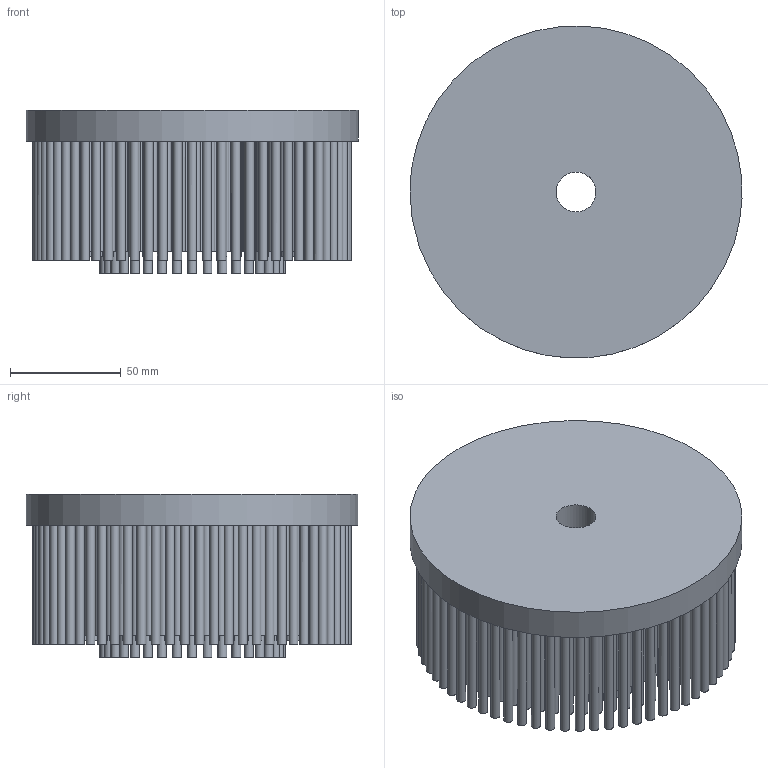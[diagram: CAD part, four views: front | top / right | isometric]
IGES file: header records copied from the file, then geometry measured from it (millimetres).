
Bounding box: 149.94 x 149.88 x 74 mm (x, y, z)
Volume: 434029.6 mm3; surface area: 236294 mm2
Topology: 172 solids, 172 shells, 749 faces, 867 edges, 578 vertices
Faces by surface type: bspline 749
